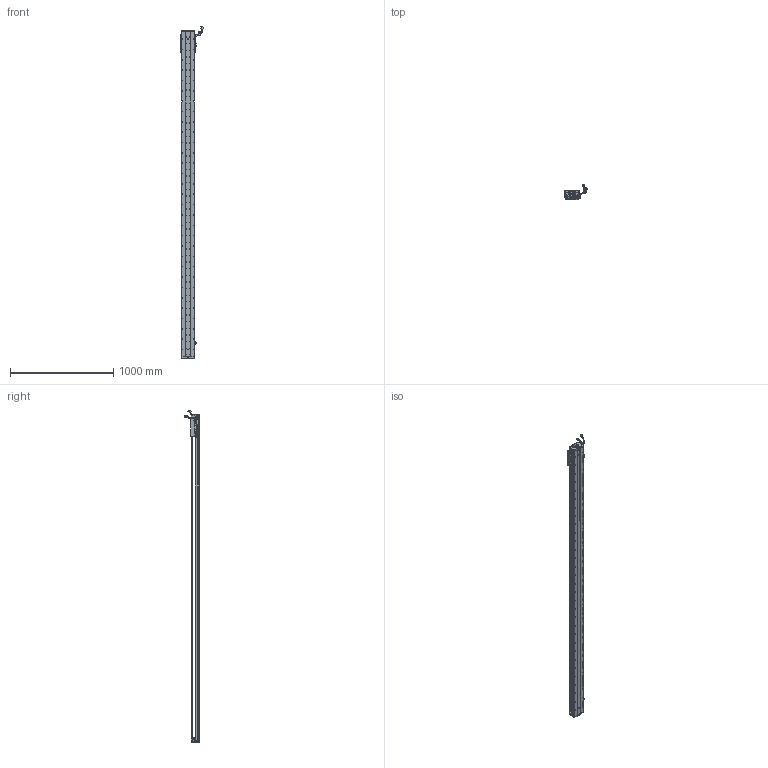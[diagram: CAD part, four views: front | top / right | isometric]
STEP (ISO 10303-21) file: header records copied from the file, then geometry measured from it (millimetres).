
FILE_DESCRIPTION (( 'STEP AP203' ), '1' );
FILE_NAME ('Z2-RY120D-1-L500-B-K.SLDASM_2900.step', '2021-05-17T05:40:41', ( '盈信电脑' ), ( '东莞市道滘镇水果街19号' ), 'SwSTEP 2.0', 'SolidWorks 2016', '' );
FILE_SCHEMA (( 'CONFIG_CONTROL_DESIGN' ));
Length unit declared in the file: millimetre
Products named in the file (37): 120-Z-臏賑輸盄裔(21遴); SCREW-M1.6-3; 672嫖萇羲壽假蚾釱; SCREW-M1.6; LABEL-Part-1; SCREW-M1.6-1; 140蚥薯蝶輸; RY100FB-遵嫖萇覜茼え; HARNESS-Part-1; Z2-RY120铝滑块（21款）; SEAL; COVER-Part-1; SCALE; HARNESS; 榋妏寠巭燃_暯_M2_2; SEAL-Part-1; SCREW-M1.6-2; Z2-RY120-L500詩湍100mm遵_2900; SCALE-Part-1; Z-RY120D詩湍奻揤裔; PBU_SHEET; SHIELDPLATE; HARNESS-Part-2; Z-RY120D詩湍狟揤裔; 140雄赽晤鎢ん堤盄; 覜茼ん672; SCALE-Part-2; SCREW-M1.7; HOLDER0; Z-120詩湍傷裔啣; 080黍杅芛假蚾釱21遴; SCREW-M1.7-1; COVER; Z2-RY120-500-倰第菁釱_2900; Z2-RY120D-1-L500-B-K.SLDASM_2900; PSLH080_PSLF2; LABEL
Assembly tree (43 placements, depth 4):
  Z2-RY120D-1-L500-B-K.SLDASM_2900
    Z2-RY120-500-倰第菁釱_2900
    覜茼ん672  x3
    672嫖萇羲壽假蚾釱  x2
    Z2-RY120铝滑块（21款）
    PSLH080_PSLF2
      SCALE
        SCALE-Part-1
        SCALE-Part-2
      HARNESS
        HARNESS-Part-1
        HARNESS-Part-2
      LABEL
        LABEL-Part-1
      COVER
        COVER-Part-1
      SEAL
        SEAL-Part-1
      榋妏寠巭燃_暯_M2_2
      SHIELDPLATE
      SCREW-M1.7
      SCREW-M1.7-1
      PBU_SHEET
      SCREW-M1.6
      SCREW-M1.6-1
      SCREW-M1.6-2
      SCREW-M1.6-3
      HOLDER0
    080黍杅芛假蚾釱21遴
    120-Z-臏賑輸盄裔(21遴)
    140雄赽晤鎢ん堤盄
    140蚥薯蝶輸  x2
    RY100FB-遵嫖萇覜茼え
    Z-120詩湍傷裔啣  x2
    Z-RY120D詩湍奻揤裔  x2
    Z-RY120D詩湍狟揤裔  x2
    Z2-RY120-L500詩湍100mm遵_2900
Bounding box: 222.83 x 140.94 x 3208.99 mm (x, y, z)
Volume: 7195918 mm3; surface area: 2560914.8 mm2
Topology: 38 solids, 38 shells, 3957 faces, 11406 edges, 7196 vertices
Faces by surface type: cylinder 2134, plane 1287, cone 414, torus 69, bspline 53
Entity records: 136039 total; most frequent: CARTESIAN_POINT 42748, ORIENTED_EDGE 19508, DIRECTION 17620, EDGE_CURVE 9754, AXIS2_PLACEMENT_3D 6530, VERTEX_POINT 6316, VECTOR 4560, LINE 4560
